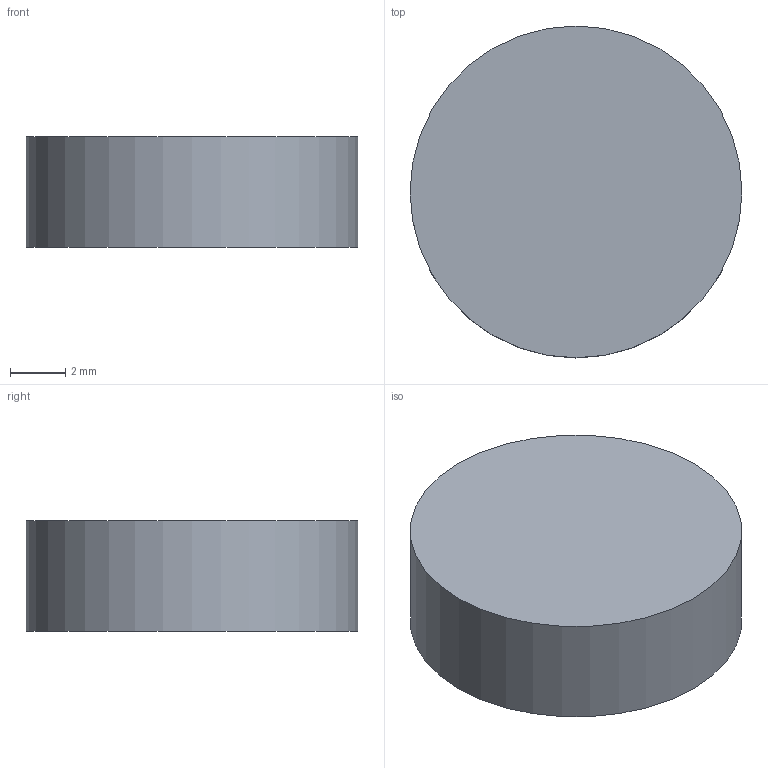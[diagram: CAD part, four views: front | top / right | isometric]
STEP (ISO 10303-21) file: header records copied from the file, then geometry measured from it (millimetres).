
FILE_DESCRIPTION(('Open CASCADE Model'),'2;1');
FILE_NAME('Open CASCADE Shape Model','2026-10-28T05:16:18',('Author'),( 'Open CASCADE'),'Open CASCADE STEP processor 7.8','Open CASCADE 7.8' ,'Unknown');
FILE_SCHEMA(('AUTOMOTIVE_DESIGN { 1 0 10303 214 1 1 1 1 }'));
Length unit declared in the file: millimetre
Products named in the file (1): Open CASCADE STEP translator 7.8 5
Bounding box: 12 x 12 x 4 mm (x, y, z)
Volume: 452.4 mm3; surface area: 377 mm2
Topology: 1 solids, 1 shells, 3 faces, 3 edges, 2 vertices
Faces by surface type: plane 2, cylinder 1
Full cylindrical faces by diameter (mm): 12 x1
Entity records: 108 total; most frequent: DIRECTION 19, CARTESIAN_POINT 15, AXIS2_PLACEMENT_3D 6, ORIENTED_EDGE 6, PCURVE 6, DEFINITIONAL_REPRESENTATION 6, LINE 5, VECTOR 5
